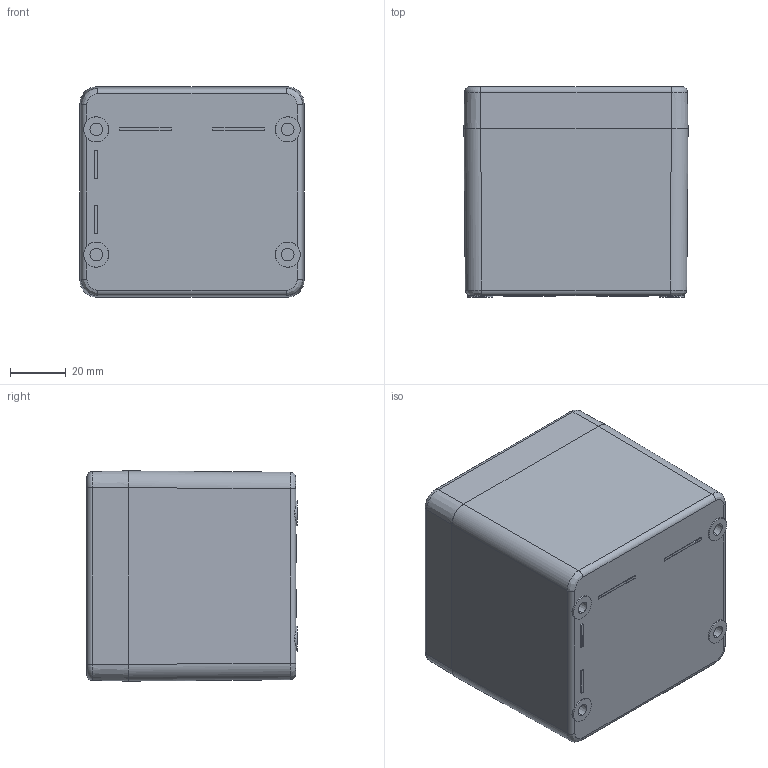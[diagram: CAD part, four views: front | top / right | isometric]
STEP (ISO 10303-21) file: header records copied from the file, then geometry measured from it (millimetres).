
FILE_DESCRIPTION((''),'2;1');
FILE_NAME('4140950050_ASM','2023-06-29T10:06:25',('Stephanie.Hoppe'),(''),'CREO PARAMETRIC BY PTC INC, 2022124','CREO PARAMETRIC BY PTC INC, 2022124','');
FILE_SCHEMA(('AUTOMOTIVE_DESIGN { 1 0 10303 214 1 1 1 1 }'));
Length unit declared in the file: millimetre
Products named in the file (13): 9331052000; EINPRESSMUTTER_M4; EINPRESSMUTTER_M4_AF8; EINPRESSMUTTER_M4_AF9; EINPRESSMUTTER_M4_AF10; EINPRESSMUTTER_M4_AF11; 9331052000_ASM; 9332039000; 9614006000_DICHTUNG; 9614006000_ASM; 9262004000; 9261014000; 4140950050_ASM
Assembly tree (19 placements, depth 3):
  4140950050_ASM
    9331052000_ASM
      9331052000
      EINPRESSMUTTER_M4  x2
      EINPRESSMUTTER_M4_AF8
      EINPRESSMUTTER_M4_AF9
      EINPRESSMUTTER_M4_AF10
      EINPRESSMUTTER_M4_AF11
    9614006000_ASM
      9332039000
      9614006000_DICHTUNG
    9262004000  x4
    9261014000  x4
Bounding box: 80.5 x 75.5 x 75.5 mm (x, y, z)
Volume: 161498.7 mm3; surface area: 81662.2 mm2
Topology: 17 solids, 27 shells, 736 faces, 1957 edges, 1300 vertices
Faces by surface type: plane 294, cone 208, cylinder 172, torus 36, bspline 26
Entity records: 30230 total; most frequent: CARTESIAN_POINT 4482, DIRECTION 3605, ORIENTED_EDGE 2530, PRESENTATION_STYLE_ASSIGNMENT 1738, STYLED_ITEM 1738, CURVE_STYLE 1563, AXIS2_PLACEMENT_3D 1404, EDGE_CURVE 1276
